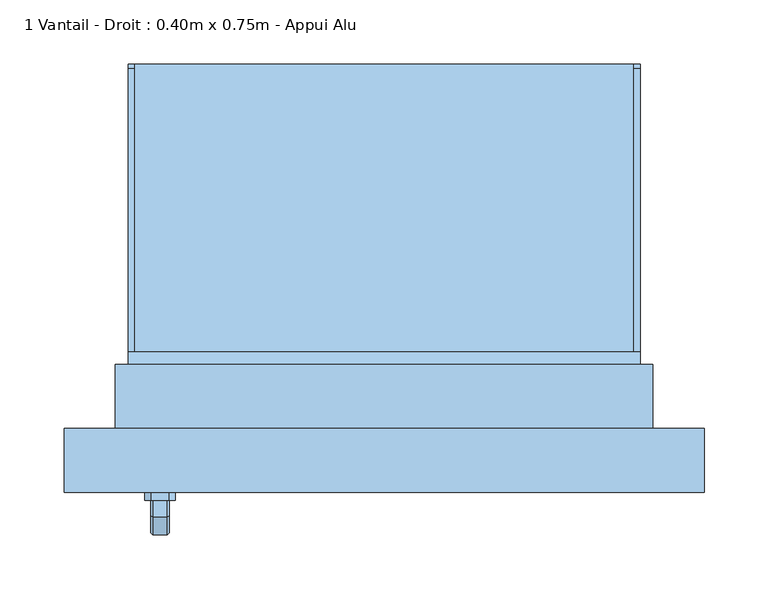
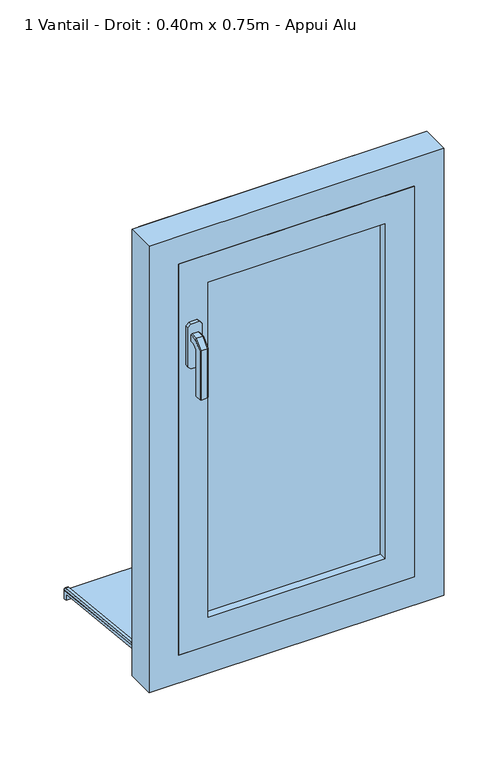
"""IFC4 building model written with IfcOpenShell, lengths in millimetres: window geometry, 1 Vantail - Droit : 0.40m x 0.75m - Appui Alu."""

from ifc_helpers import new_model, si_unit, point, frame, frame_2d, origin, place, context, project, spatial, polyline, circle_curve, trimmed, segment, composite_curve, outline, extrude, faceted_brep, source, transform, mapped, element, save


def window_1_vantail_droit_0_40m_x_0_75m_appui_alu_6d79ef9c(model_context):
    return source(origin(), model_context, "Body", "SolidModel", [
        faceted_brep([(-169.3539903, -166.0, 1422.0339292), (-167.9660708, -166.0, 1420.6460097), (-167.9660708, -166.0, 1409.3323012), (-169.3323012, -166.0, 1407.9660708), (-180.6676988, -166.0, 1407.9660708), (-182.0339292, -166.0, 1409.3323012), (-182.0339292, -166.0, 1420.6460097), (-180.6460097, -166.0, 1422.0339292), (-169.3539903, -178.9135489, 1422.0339292), (-167.9660708, -178.3386538, 1420.6460097), (-167.9660708, -191.6460097, 1407.3386538), (-167.9660708, -191.6460097, 1320.0), (-167.9660708, -180.3323012, 1320.0), (-167.9660708, -180.3323012, 1402.6523623), (-167.9660708, -173.6523623, 1409.3323012), (-169.3323012, -173.0864511, 1407.9660708), (-180.6676988, -173.0864511, 1407.9660708), (-182.0339292, -173.6523623, 1409.3323012), (-182.0339292, -180.3323012, 1402.6523623), (-182.0339292, -180.3323012, 1320.0), (-182.0339292, -191.6460097, 1320.0), (-182.0339292, -191.6460097, 1407.3386538), (-182.0339292, -178.3386538, 1420.6460097), (-180.6460097, -178.9135489, 1422.0339292), (-169.3539903, -193.0339292, 1407.9135489), (-169.3323012, -178.9660708, 1402.0864511), (-180.6676988, -178.9660708, 1402.0864511), (-180.6460097, -193.0339292, 1407.9135489), (-169.3539903, -193.0339292, 1320.0), (-180.6460097, -193.0339292, 1320.0), (-180.6676988, -178.9660708, 1320.0), (-169.3323012, -178.9660708, 1320.0)], [[[0, 1, 2, 3, 4, 5, 6, 7]], [[1, 0, 8, 9]], [[2, 1, 9, 10, 11, 12, 13, 14]], [[3, 2, 14, 15]], [[4, 3, 15, 16]], [[5, 4, 16, 17]], [[6, 5, 17, 18, 19, 20, 21, 22]], [[7, 6, 22, 23]], [[0, 7, 23, 8]], [[9, 8, 24, 10]], [[15, 14, 13, 25]], [[16, 15, 25, 26]], [[17, 16, 26, 18]], [[23, 22, 21, 27]], [[8, 23, 27, 24]], [[28, 29, 20, 19, 30, 31, 12, 11]], [[10, 24, 28, 11]], [[25, 13, 12, 31]], [[26, 25, 31, 30]], [[18, 26, 30, 19]], [[27, 21, 20, 29]], [[24, 27, 29, 28]]]),
        extrude(outline(polyline([(1440.0, -168.0), (1440.0, -182.0), (1435.0, -187.0), (1365.0, -187.0), (1360.0, -182.0), (1360.0, -168.0), (1365.0, -163.0), (1435.0, -163.0), (1440.0, -168.0)])), frame((0.0, -166.0, 0.0), z_axis=(0.0, 1.0, 0.0), x_axis=(0.0, 0.0, 1.0)), (0.0, 0.0, 1.0), 6.0),
        extrude(outline(polyline([(175.0, 763.4536318), (175.0, 747.8979153), (170.0, 748.4234365), (170.0, 758.7239412), (-80.0, 785.0), (-80.0, 800.0), (-75.0, 800.0), (-75.0, 789.7296906), (175.0, 763.4536318)])), frame((-200.0, 0.0, 0.0), z_axis=(1.0, 0.0, 0.0), x_axis=(0.0, 1.0, 0.0)), (0.0, 0.0, 1.0), 400.0),
        extrude(outline(composite_curve([segment(polyline([(175.0, 763.4536318), (-75.0, 789.7296906), (-75.0, 794.757232), (171.4181139, 768.8576446)]), True, "CONTINUOUS"), segment(trimmed(circle_curve(frame_2d((171.0, 764.879557)), 4.0), [point((171.4181139, 768.8576446))], [point((175.0, 764.879557))], False, "CARTESIAN"), True, "CONTINUOUS"), segment(polyline([(175.0, 764.879557), (175.0, 763.4536318)]), True, "CONTINUOUS")], self_intersect=False)), frame((-200.0, 0.0, 0.0), z_axis=(1.0, 0.0, 0.0), x_axis=(0.0, 1.0, 0.0)), (0.0, 0.0, 1.0), 5.0),
        extrude(outline(composite_curve([segment(polyline([(175.0, 763.4536318), (-75.0, 789.7296906), (-75.0, 794.757232), (171.4181139, 768.8576446)]), True, "CONTINUOUS"), segment(trimmed(circle_curve(frame_2d((171.0, 764.879557)), 4.0), [point((171.4181139, 768.8576446))], [point((175.0, 764.879557))], False, "CARTESIAN"), True, "CONTINUOUS"), segment(polyline([(175.0, 764.879557), (175.0, 763.4536318)]), True, "CONTINUOUS")], self_intersect=False)), frame((195.0, 0.0, 0.0), z_axis=(1.0, 0.0, 0.0), x_axis=(0.0, 1.0, 0.0)), (0.0, 0.0, 1.0), 5.0),
        extrude(outline(polyline([(-150.0, -134.0), (150.0, -134.0), (150.0, -146.0), (-150.0, -146.0), (-150.0, -134.0)])), frame((0.0, 0.0, 900.0), z_axis=(0.0, 0.0, 1.0), x_axis=(1.0, 0.0, 0.0)), (0.0, 0.0, 1.0), 600.0),
        extrude(outline(polyline([(850.0, 200.0), (1550.0, 200.0), (1550.0, -200.0), (850.0, -200.0), (850.0, 200.0)]), holes=[polyline([(900.0, -150.0), (1500.0, -150.0), (1500.0, 150.0), (900.0, 150.0), (900.0, -150.0)])]), frame((0.0, -160.0, 0.0), z_axis=(0.0, 1.0, 0.0), x_axis=(0.0, 0.0, 1.0)), (0.0, 0.0, 1.0), 40.0),
        faceted_brep([(-250.0, -160.0, 800.0), (-250.0, -110.0, 800.0), (-200.0, -110.0, 800.0), (-200.0, -60.0, 800.0), (200.0, -60.0, 800.0), (200.0, -110.0, 800.0), (250.0, -110.0, 800.0), (250.0, -160.0, 800.0), (-250.0, -160.0, 1600.0), (-250.0, -110.0, 1600.0), (250.0, -110.0, 1600.0), (200.0, -110.0, 839.3761425), (-200.0, -110.0, 839.3761425), (-185.0, -110.0, 1535.0), (-185.0, -110.0, 865.0), (185.0, -110.0, 865.0), (185.0, -110.0, 1535.0), (-200.0, -50.0, 823.2991909), (-200.0, -50.0, 795.0), (-200.0, -60.0, 795.0), (200.0, -60.0, 795.0), (200.0, -50.0, 795.0), (200.0, -50.0, 823.2991909), (250.0, -160.0, 1600.0), (200.0, -160.0, 1550.0), (200.0, -160.0, 850.0), (-200.0, -160.0, 850.0), (-200.0, -160.0, 1550.0), (-185.0, -120.0, 1535.0), (-185.0, -120.0, 865.0), (185.0, -120.0, 865.0), (185.0, -120.0, 1535.0), (200.0, -120.0, 1550.0), (-200.0, -120.0, 1550.0), (-200.0, -120.0, 850.0), (200.0, -120.0, 850.0)], [[[0, 1, 2, 3, 4, 5, 6, 7]], [[1, 0, 8, 9]], [[1, 9, 10, 6, 5, 11, 12, 2], [13, 14, 15, 16]], [[12, 17, 18, 19, 3, 2]], [[3, 19, 20, 4]], [[4, 20, 21, 22, 11, 5]], [[6, 10, 23, 7]], [[0, 7, 23, 8], [24, 25, 26, 27]], [[13, 28, 29, 14]], [[29, 30, 15, 14]], [[31, 16, 15, 30]], [[17, 12, 11, 22]], [[32, 33, 34, 35], [28, 31, 30, 29]], [[34, 33, 27, 26]], [[26, 25, 35, 34]], [[24, 32, 35, 25]], [[18, 17, 22, 21]], [[19, 18, 21, 20]], [[13, 16, 31, 28]], [[33, 32, 24, 27]], [[10, 9, 8, 23]]]),
        extrude(outline(polyline([(800.0, -210.0), (800.0, -200.0), (1550.0, -200.0), (1550.0, 200.0), (800.0, 200.0), (800.0, 210.0), (1560.0, 210.0), (1560.0, -210.0), (800.0, -210.0)])), frame((0.0, -110.0, 0.0), z_axis=(0.0, 1.0, 0.0), x_axis=(0.0, 0.0, 1.0)), (0.0, 0.0, 1.0), 50.0),
    ])


if __name__ == "__main__":
    model = new_model("IFC4")
    model_context = context("Model", 3, world=origin())
    ifc_project = project(units=[si_unit("LENGTHUNIT", "METRE", prefix="MILLI")], contexts=[model_context])
    site = spatial("IfcSite", under=ifc_project)
    building = spatial("IfcBuilding", under=site)
    placement = place(None, origin())
    window_1_vantail_droit_0_40m_x_0_75m_appui_alu_shape = window_1_vantail_droit_0_40m_x_0_75m_appui_alu_6d79ef9c(model_context)
    element("IfcWindow", 1, ObjectType="1 Vantail - Droit : 0.40m x 0.75m - Appui Alu", at=placement, inside=building, context=model_context, shape_type="MappedRepresentation", body=[
        mapped(window_1_vantail_droit_0_40m_x_0_75m_appui_alu_shape, transform((0.0, 0.0, 0.0), x_axis=(1.0, 0.0, 0.0), y_axis=(0.0, 1.0, 0.0), z_axis=(0.0, 0.0, 1.0))),
    ])
    save(model, "model.ifc")
